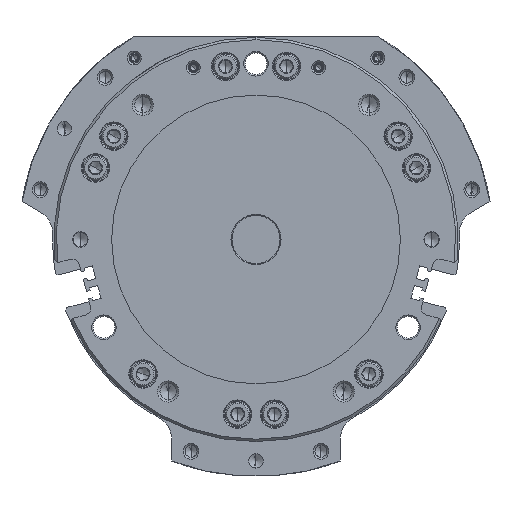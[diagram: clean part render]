
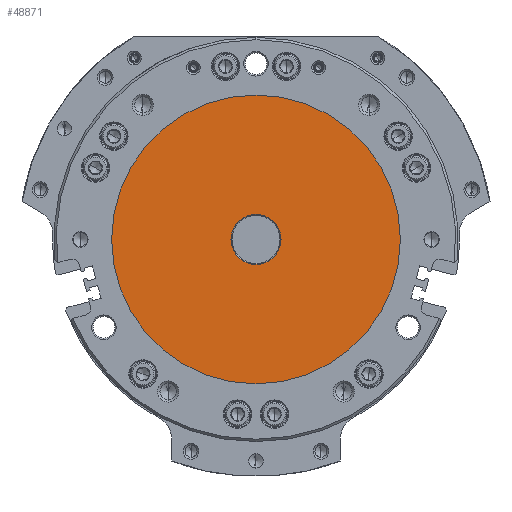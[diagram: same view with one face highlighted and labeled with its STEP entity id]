
A CAD part, front view. The second image highlights one B-rep face of the part: STEP entity #48871.
In plain terms, the highlighted planar face has unit normal (0, -1, 0).
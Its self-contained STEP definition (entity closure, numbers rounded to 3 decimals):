
#58 = EDGE_CURVE ( 'NONE', #24975, #5953, #11265, .T. ) ;
#2117 = DIRECTION ( 'NONE',  ( 0., 1., 0. ) ) ;
#3904 = DIRECTION ( 'NONE',  ( 0., 1., 0. ) ) ;
#4105 = EDGE_LOOP ( 'NONE', ( #40383, #4469 ) ) ;
#4469 = ORIENTED_EDGE ( 'NONE', *, *, #42082, .F. ) ;
#5953 = VERTEX_POINT ( 'NONE', #27626 ) ;
#6534 = DIRECTION ( 'NONE',  ( 0., 1., 0. ) ) ;
#8883 = CIRCLE ( 'NONE', #25744, 60. ) ;
#10312 = CARTESIAN_POINT ( 'NONE',  ( 0., 0.3, 0. ) ) ;
#10881 = DIRECTION ( 'NONE',  ( 0., 0., 1. ) ) ;
#11265 = CIRCLE ( 'NONE', #35633, 10.4 ) ;
#14603 = ORIENTED_EDGE ( 'NONE', *, *, #58, .T. ) ;
#16358 = CIRCLE ( 'NONE', #24788, 60. ) ;
#18644 = CARTESIAN_POINT ( 'NONE',  ( 0., 0.3, -60. ) ) ;
#19864 = EDGE_LOOP ( 'NONE', ( #14603, #28921 ) ) ;
#22491 = DIRECTION ( 'NONE',  ( 0., -1., 0. ) ) ;
#23527 = DIRECTION ( 'NONE',  ( 0., 0., 1. ) ) ;
#24788 = AXIS2_PLACEMENT_3D ( 'NONE', #51047, #2117, #33184 ) ;
#24975 = VERTEX_POINT ( 'NONE', #50971 ) ;
#25744 = AXIS2_PLACEMENT_3D ( 'NONE', #56672, #3904, #29681 ) ;
#27626 = CARTESIAN_POINT ( 'NONE',  ( 0., 0.3, 10.4 ) ) ;
#28921 = ORIENTED_EDGE ( 'NONE', *, *, #31096, .T. ) ;
#29681 = DIRECTION ( 'NONE',  ( 0., 0., 1. ) ) ;
#30053 = VERTEX_POINT ( 'NONE', #53979 ) ;
#31096 = EDGE_CURVE ( 'NONE', #5953, #24975, #40403, .T. ) ;
#33184 = DIRECTION ( 'NONE',  ( 0., 0., 1. ) ) ;
#33768 = VERTEX_POINT ( 'NONE', #18644 ) ;
#35633 = AXIS2_PLACEMENT_3D ( 'NONE', #54586, #6534, #23527 ) ;
#36590 = FACE_BOUND ( 'NONE', #19864, .T. ) ;
#37310 = DIRECTION ( 'NONE',  ( 0., 1., 0. ) ) ;
#40383 = ORIENTED_EDGE ( 'NONE', *, *, #41825, .F. ) ;
#40403 = CIRCLE ( 'NONE', #56276, 10.4 ) ;
#41825 = EDGE_CURVE ( 'NONE', #30053, #33768, #8883, .T. ) ;
#42082 = EDGE_CURVE ( 'NONE', #33768, #30053, #16358, .T. ) ;
#44777 = CARTESIAN_POINT ( 'NONE',  ( 0., 0.3, 0. ) ) ;
#48871 = ADVANCED_FACE ( 'NONE', ( #36590, #49157 ), #53278, .T. ) ;
#49068 = AXIS2_PLACEMENT_3D ( 'NONE', #44777, #22491, #54143 ) ;
#49157 = FACE_OUTER_BOUND ( 'NONE', #4105, .T. ) ;
#50971 = CARTESIAN_POINT ( 'NONE',  ( 0., 0.3, -10.4 ) ) ;
#51047 = CARTESIAN_POINT ( 'NONE',  ( 0., 0.3, 0. ) ) ;
#53278 = PLANE ( 'NONE',  #49068 ) ;
#53979 = CARTESIAN_POINT ( 'NONE',  ( 0., 0.3, 60. ) ) ;
#54143 = DIRECTION ( 'NONE',  ( 0., 0., -1. ) ) ;
#54586 = CARTESIAN_POINT ( 'NONE',  ( 0., 0.3, 0. ) ) ;
#56276 = AXIS2_PLACEMENT_3D ( 'NONE', #10312, #37310, #10881 ) ;
#56672 = CARTESIAN_POINT ( 'NONE',  ( 0., 0.3, 0. ) ) ;
